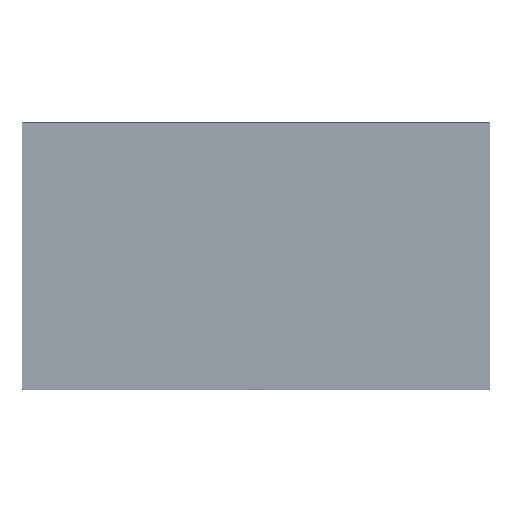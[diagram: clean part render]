
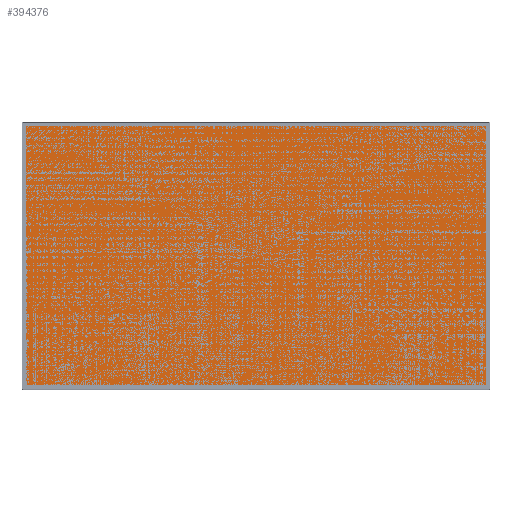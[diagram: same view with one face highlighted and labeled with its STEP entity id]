
A CAD part, top view. The second image highlights one B-rep face of the part: STEP entity #394376.
In plain terms, the highlighted planar face has unit normal (0, 0, 1).
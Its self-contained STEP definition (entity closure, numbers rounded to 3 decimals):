
#394337=DIRECTION('',(-1.,0.,0.));
#394338=VECTOR('',#394337,1437.9);
#394339=CARTESIAN_POINT('',(718.95,-407.53,-1.075));
#394340=LINE('',#394339,#394338);
#394341=DIRECTION('',(0.,1.,0.));
#394342=VECTOR('',#394341,814.2);
#394343=CARTESIAN_POINT('',(-718.95,-407.53,-1.075));
#394344=LINE('',#394343,#394342);
#394345=DIRECTION('',(-1.,0.,0.));
#394346=VECTOR('',#394345,1437.9);
#394347=CARTESIAN_POINT('',(718.95,406.67,-1.075));
#394348=LINE('',#394347,#394346);
#394349=DIRECTION('',(0.,1.,0.));
#394350=VECTOR('',#394349,814.2);
#394351=CARTESIAN_POINT('',(718.95,-407.53,-1.075));
#394352=LINE('',#394351,#394350);
#394353=CARTESIAN_POINT('',(718.95,406.67,-1.075));
#394354=CARTESIAN_POINT('',(-718.95,406.67,-1.075));
#394355=VERTEX_POINT('',#394353);
#394356=VERTEX_POINT('',#394354);
#394357=CARTESIAN_POINT('',(718.95,-407.53,-1.075));
#394358=VERTEX_POINT('',#394357);
#394359=CARTESIAN_POINT('',(-718.95,-407.53,-1.075));
#394360=VERTEX_POINT('',#394359);
#394361=CARTESIAN_POINT('',(718.95,406.67,-1.));
#394362=DIRECTION('',(0.,0.,1.));
#394363=DIRECTION('',(-1.,0.,0.));
#394364=AXIS2_PLACEMENT_3D('',#394361,#394362,#394363);
#394365=PLANE('',#394364);
#394367=ORIENTED_EDGE('',*,*,#394366,.F.);
#394369=ORIENTED_EDGE('',*,*,#394368,.F.);
#394371=ORIENTED_EDGE('',*,*,#394370,.T.);
#394373=ORIENTED_EDGE('',*,*,#394372,.T.);
#394374=EDGE_LOOP('',(#394367,#394369,#394371,#394373));
#394375=FACE_OUTER_BOUND('',#394374,.F.);
#394366=EDGE_CURVE('',#394355,#394356,#394348,.T.);
#394368=EDGE_CURVE('',#394358,#394355,#394352,.T.);
#394370=EDGE_CURVE('',#394358,#394360,#394340,.T.);
#394372=EDGE_CURVE('',#394360,#394356,#394344,.T.);
#394376=ADVANCED_FACE('',(#394375),#394365,.T.);
